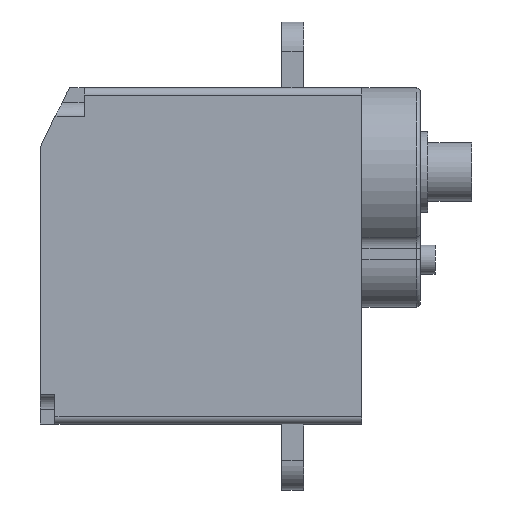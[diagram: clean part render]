
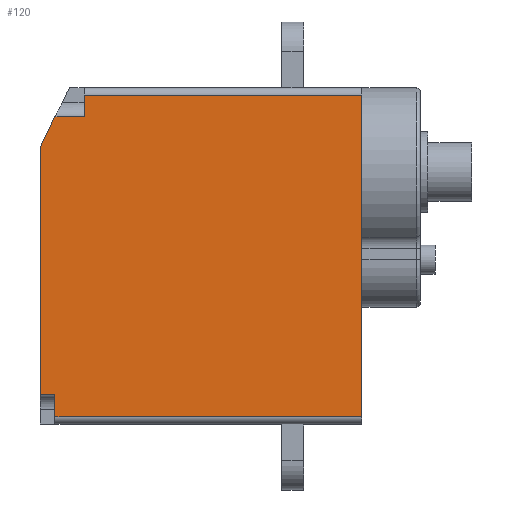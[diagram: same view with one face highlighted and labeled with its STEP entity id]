
A CAD part, top view. The second image highlights one B-rep face of the part: STEP entity #120.
In plain terms, the highlighted planar face has unit normal (0, 0, 1).
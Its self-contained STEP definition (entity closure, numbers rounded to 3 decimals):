
#46 = VECTOR ( 'NONE', #851, 1000. ) ;
#61 = EDGE_CURVE ( 'NONE', #1687, #1814, #547, .T. ) ;
#62 = ORIENTED_EDGE ( 'NONE', *, *, #1050, .F. ) ;
#102 = LINE ( 'NONE', #644, #2116 ) ;
#120 = ADVANCED_FACE ( 'NONE', ( #569 ), #1822, .T. ) ;
#140 = EDGE_CURVE ( 'NONE', #1562, #856, #922, .T. ) ;
#179 = EDGE_CURVE ( 'NONE', #1581, #1424, #556, .T. ) ;
#245 = ORIENTED_EDGE ( 'NONE', *, *, #1812, .T. ) ;
#259 = DIRECTION ( 'NONE',  ( -1., 0., 0. ) ) ;
#272 = ORIENTED_EDGE ( 'NONE', *, *, #140, .F. ) ;
#330 = LINE ( 'NONE', #1030, #1191 ) ;
#408 = EDGE_CURVE ( 'NONE', #2084, #1353, #1938, .T. ) ;
#435 = CARTESIAN_POINT ( 'NONE',  ( -8., 11., 6.25 ) ) ;
#473 = ORIENTED_EDGE ( 'NONE', *, *, #1384, .T. ) ;
#547 = LINE ( 'NONE', #1243, #1515 ) ;
#549 = DIRECTION ( 'NONE',  ( 0., 0., 1. ) ) ;
#556 = LINE ( 'NONE', #590, #1439 ) ;
#563 = ORIENTED_EDGE ( 'NONE', *, *, #1979, .T. ) ;
#569 = FACE_OUTER_BOUND ( 'NONE', #1859, .T. ) ;
#582 = DIRECTION ( 'NONE',  ( 1., 0., 0. ) ) ;
#590 = CARTESIAN_POINT ( 'NONE',  ( -11., 11.5, 6.25 ) ) ;
#644 = CARTESIAN_POINT ( 'NONE',  ( 11., -11., 6.25 ) ) ;
#697 = CARTESIAN_POINT ( 'NONE',  ( -10., 7.264, 6.25 ) ) ;
#812 = ORIENTED_EDGE ( 'NONE', *, *, #408, .F. ) ;
#813 = CARTESIAN_POINT ( 'NONE',  ( -8., 11., 6.25 ) ) ;
#843 = DIRECTION ( 'NONE',  ( 1., 0., 0. ) ) ;
#851 = DIRECTION ( 'NONE',  ( 0., 1., 0. ) ) ;
#852 = AXIS2_PLACEMENT_3D ( 'NONE', #1627, #1830, #582 ) ;
#856 = VERTEX_POINT ( 'NONE', #1399 ) ;
#922 = LINE ( 'NONE', #2182, #1295 ) ;
#972 = CARTESIAN_POINT ( 'NONE',  ( -8., 9.5, 6.25 ) ) ;
#980 = VERTEX_POINT ( 'NONE', #1834 ) ;
#1030 = CARTESIAN_POINT ( 'NONE',  ( 11., 11.5, 6.25 ) ) ;
#1050 = EDGE_CURVE ( 'NONE', #1814, #1424, #1442, .T. ) ;
#1076 = CARTESIAN_POINT ( 'NONE',  ( 0., 9.5, 6.25 ) ) ;
#1107 = ORIENTED_EDGE ( 'NONE', *, *, #1757, .T. ) ;
#1108 = LINE ( 'NONE', #435, #1218 ) ;
#1127 = DIRECTION ( 'NONE',  ( 0., -1., 0. ) ) ;
#1131 = ORIENTED_EDGE ( 'NONE', *, *, #179, .T. ) ;
#1173 = EDGE_CURVE ( 'NONE', #1545, #980, #330, .T. ) ;
#1191 = VECTOR ( 'NONE', #1534, 1000. ) ;
#1218 = VECTOR ( 'NONE', #259, 1000. ) ;
#1243 = CARTESIAN_POINT ( 'NONE',  ( -10., -9.5, 6.25 ) ) ;
#1251 = AXIS2_PLACEMENT_3D ( 'NONE', #697, #549, #2141 ) ;
#1273 = CARTESIAN_POINT ( 'NONE',  ( -10., -9.5, 6.25 ) ) ;
#1295 = VECTOR ( 'NONE', #1651, 1000. ) ;
#1353 = VERTEX_POINT ( 'NONE', #813 ) ;
#1361 = ORIENTED_EDGE ( 'NONE', *, *, #1173, .T. ) ;
#1384 = EDGE_CURVE ( 'NONE', #1687, #1545, #102, .T. ) ;
#1399 = CARTESIAN_POINT ( 'NONE',  ( -10., 9.5, 6.25 ) ) ;
#1403 = CARTESIAN_POINT ( 'NONE',  ( -8., 0., 6.25 ) ) ;
#1424 = VERTEX_POINT ( 'NONE', #1899 ) ;
#1439 = VECTOR ( 'NONE', #1127, 1000. ) ;
#1442 = LINE ( 'NONE', #1273, #1966 ) ;
#1515 = VECTOR ( 'NONE', #1950, 1000. ) ;
#1534 = DIRECTION ( 'NONE',  ( 0., 1., 0. ) ) ;
#1545 = VERTEX_POINT ( 'NONE', #2230 ) ;
#1562 = VERTEX_POINT ( 'NONE', #1599 ) ;
#1563 = DIRECTION ( 'NONE',  ( -1., 0., 0. ) ) ;
#1573 = CARTESIAN_POINT ( 'NONE',  ( -10., -9.5, 6.25 ) ) ;
#1581 = VERTEX_POINT ( 'NONE', #2107 ) ;
#1599 = CARTESIAN_POINT ( 'NONE',  ( -10.894, 7.711, 6.25 ) ) ;
#1626 = VECTOR ( 'NONE', #1563, 1000. ) ;
#1627 = CARTESIAN_POINT ( 'NONE',  ( 0., 0., 6.25 ) ) ;
#1651 = DIRECTION ( 'NONE',  ( 0.447, 0.894, 0. ) ) ;
#1687 = VERTEX_POINT ( 'NONE', #2228 ) ;
#1713 = ORIENTED_EDGE ( 'NONE', *, *, #61, .F. ) ;
#1757 = EDGE_CURVE ( 'NONE', #1562, #1581, #1811, .T. ) ;
#1811 = CIRCLE ( 'NONE', #1251, 1. ) ;
#1812 = EDGE_CURVE ( 'NONE', #2084, #856, #1943, .T. ) ;
#1814 = VERTEX_POINT ( 'NONE', #1573 ) ;
#1822 = PLANE ( 'NONE',  #852 ) ;
#1830 = DIRECTION ( 'NONE',  ( 0., 0., 1. ) ) ;
#1834 = CARTESIAN_POINT ( 'NONE',  ( 11., 11., 6.25 ) ) ;
#1859 = EDGE_LOOP ( 'NONE', ( #1713, #473, #1361, #563, #812, #245, #272, #1107, #1131, #62 ) ) ;
#1899 = CARTESIAN_POINT ( 'NONE',  ( -11., -9.5, 6.25 ) ) ;
#1938 = LINE ( 'NONE', #1403, #46 ) ;
#1943 = LINE ( 'NONE', #1076, #1626 ) ;
#1950 = DIRECTION ( 'NONE',  ( 0., 1., 0. ) ) ;
#1966 = VECTOR ( 'NONE', #1978, 1000. ) ;
#1978 = DIRECTION ( 'NONE',  ( -1., 0., 0. ) ) ;
#1979 = EDGE_CURVE ( 'NONE', #980, #1353, #1108, .T. ) ;
#2084 = VERTEX_POINT ( 'NONE', #972 ) ;
#2107 = CARTESIAN_POINT ( 'NONE',  ( -11., 7.264, 6.25 ) ) ;
#2116 = VECTOR ( 'NONE', #843, 1000. ) ;
#2141 = DIRECTION ( 'NONE',  ( 1., 0., 0. ) ) ;
#2182 = CARTESIAN_POINT ( 'NONE',  ( -11., 7.5, 6.25 ) ) ;
#2228 = CARTESIAN_POINT ( 'NONE',  ( -10., -11., 6.25 ) ) ;
#2230 = CARTESIAN_POINT ( 'NONE',  ( 11., -11., 6.25 ) ) ;
